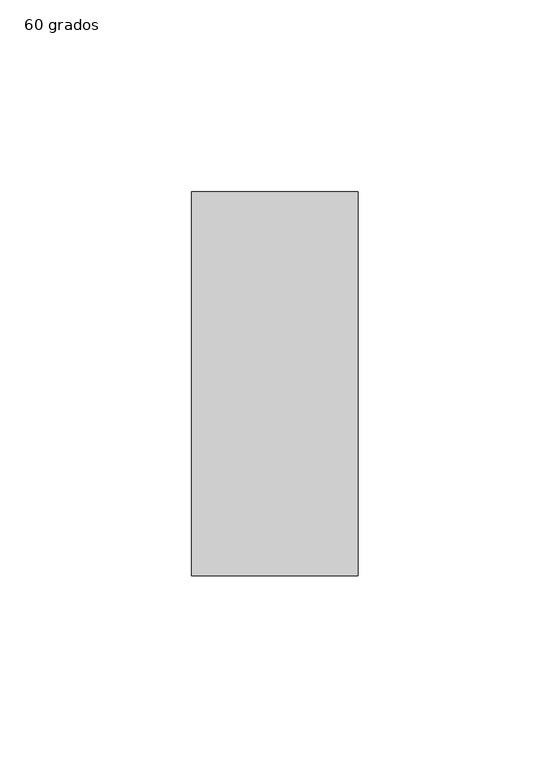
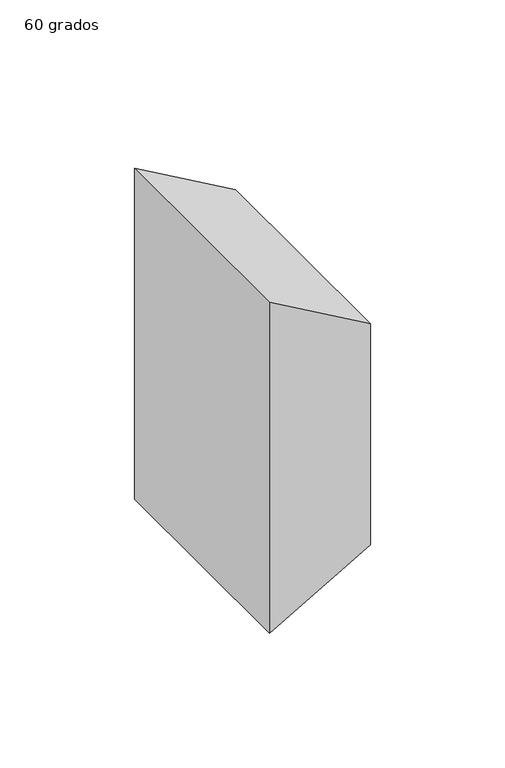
"""IFC4 building model written with IfcOpenShell, lengths in millimetres: duct fitting geometry, M_Transición rectangular - Ángulo : 60 grados."""

from ifc_helpers import new_model, si_unit, frame, origin, place, context, project, spatial, polyline, outline, extrude, source, transform, mapped, element, save


def duct_fitting_60_grados_9763afe1(model_context):
    return source(origin(), model_context, "Body", "SweptSolid", [
        extrude(outline(polyline([(75.0, 0.0), (-75.0, 0.0), (-50.0, 43.3012702), (50.0, 43.3012702), (75.0, 0.0)])), frame((0.0, -50.0, 0.0), z_axis=(0.0, 1.0, 0.0), x_axis=(0.0, 0.0, 1.0)), (0.0, 0.0, 1.0), 100.0),
    ])


if __name__ == "__main__":
    model = new_model("IFC4")
    model_context = context("Model", 3, world=origin())
    ifc_project = project(units=[si_unit("LENGTHUNIT", "METRE", prefix="MILLI")], contexts=[model_context])
    site = spatial("IfcSite", under=ifc_project)
    building = spatial("IfcBuilding", under=site)
    placement = place(None, origin())
    duct_fitting_60_grados_shape = duct_fitting_60_grados_9763afe1(model_context)
    element("IfcDuctFitting", 1, ObjectType="M_Transición rectangular - Ángulo : 60 grados", at=placement, inside=building, context=model_context, shape_type="MappedRepresentation", body=[
        mapped(duct_fitting_60_grados_shape, transform((0.0, 0.0, 0.0), x_axis=(1.0, 0.0, 0.0), y_axis=(0.0, 1.0, 0.0), z_axis=(0.0, 0.0, 1.0))),
    ])
    save(model, "model.ifc")
